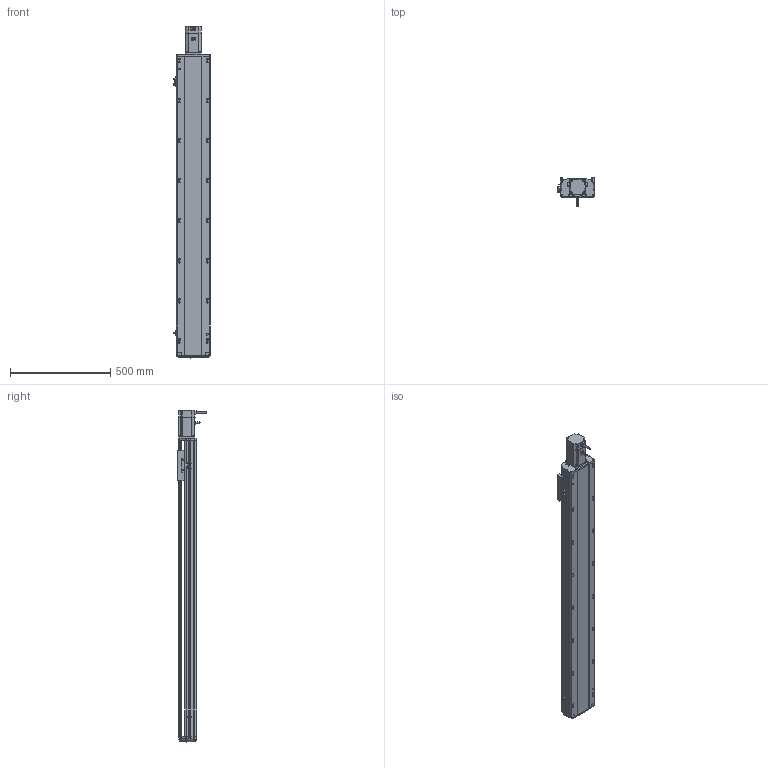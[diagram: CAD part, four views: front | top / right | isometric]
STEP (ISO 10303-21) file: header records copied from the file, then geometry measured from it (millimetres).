
FILE_DESCRIPTION (( 'STEP AP214' ), '1' );
FILE_NAME ('RTH17-XX-1250-E-M75-C4.STEP', '2025-10-24T09:59:58', ( '' ), ( '' ), 'SwSTEP 2.0', 'SolidWorks 2018', '' );
FILE_SCHEMA (( 'AUTOMOTIVE_DESIGN' ));
Length unit declared in the file: millimetre
Products named in the file (9): N_RTH17-GY-001P^RTH17-XX-XX-E-M75-C4（方程式）; RTH17-XX-1250-E-M75-C4; N_RTH17-E-008-P75电机板^RTH17-XX-XX-E-M75-C4（方程式）; N_RTH17-E-007上盖^RTH17-XX-XX-E-M75-C4（方程式）; N_RTH17-E-011底座^RTH17-XX-XX-E-M75-C4（方程式）; N_RTH17-E-004丝杆螺母连接座^RTH17-XX-XX-E-M75-C4（方程式）; N_OMRON EE-SX672 換覜ん^RTH17-XX-XX-E-M75-C4ㄗ源最宒ㄘ; N_RTH-L-012 感应片(外置)^RTH17-XX-XX-E-M75-C4（方程式）; N_M75^RTH17-XX-XX-E-M75-C4（方程式）
Assembly tree (10 placements, depth 2):
  RTH17-XX-1250-E-M75-C4
    N_RTH17-E-011底座^RTH17-XX-XX-E-M75-C4（方程式）
    N_RTH17-E-007上盖^RTH17-XX-XX-E-M75-C4（方程式）
    N_M75^RTH17-XX-XX-E-M75-C4（方程式）
    N_RTH17-E-008-P75电机板^RTH17-XX-XX-E-M75-C4（方程式）
    N_OMRON EE-SX672 換覜ん^RTH17-XX-XX-E-M75-C4ㄗ源最宒ㄘ  x3
    N_RTH-L-012 感应片(外置)^RTH17-XX-XX-E-M75-C4（方程式）
    N_RTH17-E-004丝杆螺母连接座^RTH17-XX-XX-E-M75-C4（方程式）
    N_RTH17-GY-001P^RTH17-XX-XX-E-M75-C4（方程式）
Bounding box: 183.5 x 145.7 x 1658.19 mm (x, y, z)
Volume: 11988247.1 mm3; surface area: 1548612.8 mm2
Topology: 9 solids, 11 shells, 1812 faces, 5037 edges, 3266 vertices
Faces by surface type: plane 828, cylinder 570, bspline 377, cone 28, torus 9
Entity records: 54070 total; most frequent: CARTESIAN_POINT 21171, ORIENTED_EDGE 7098, DIRECTION 5957, EDGE_CURVE 3553, VERTEX_POINT 2302, AXIS2_PLACEMENT_3D 2039, VECTOR 1879, LINE 1879
